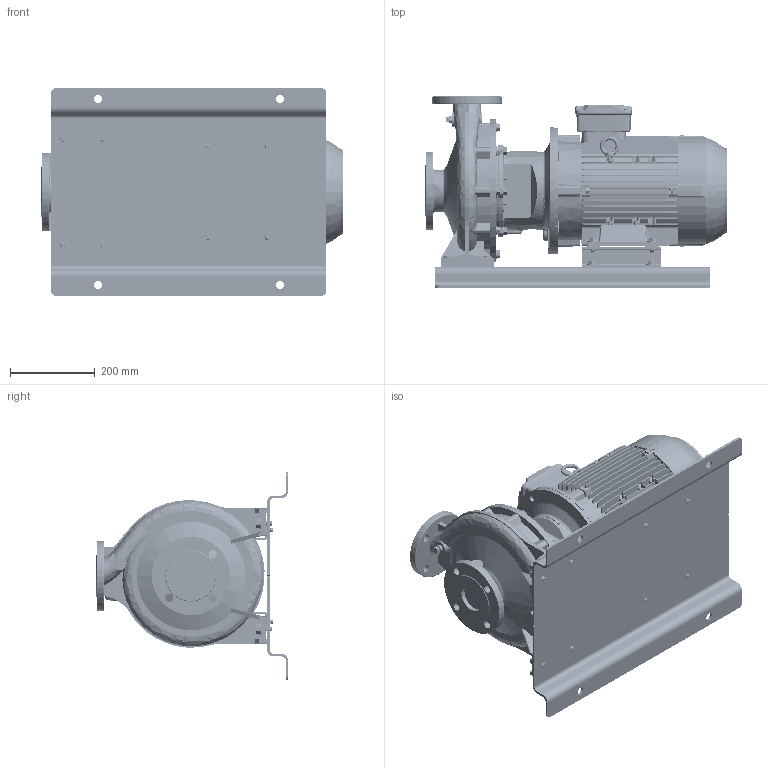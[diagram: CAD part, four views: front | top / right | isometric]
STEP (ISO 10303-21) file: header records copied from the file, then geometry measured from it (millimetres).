
FILE_DESCRIPTION (( 'STEP AP214' ), '1' );
FILE_NAME ('GSD4 50-250_5.5_(132S)_W21_BP.STEP', '2024-08-12T05:53:28', ( '' ), ( '' ), 'SwSTEP 2.0', 'SolidWorks 2019', '' );
FILE_SCHEMA (( 'AUTOMOTIVE_DESIGN' ));
Length unit declared in the file: millimetre
Products named in the file (22): Parametric bolt and washer_SFT-A299B; Parametric bolt_SFT-A299B; Parametric bolt_SFT-A249B; Parametric bolt and washer_SFT-A253B; 50-250-132S_______; Parametric bolt_SFT-A253B; Parametric bolt and washer_SFT-A249B; N5S5 GSDA-559 F1-1832985-00; 132S ALIE3_W21T_B35; Parametric Flat Washer_M10; 140 x 48 - 271472022; Parametric Flat Washer_M12; GSD4 50-250_5.5_(132S)_W21_BP
Assembly tree (41 placements, depth 3):
  GSD4 50-250_5.5_(132S)_W21_BP
    50-250-132S_______
    N5S5 GSDA-559 F1-1832985-00
    140 x 48 - 271472022  x2
    Parametric bolt and washer_SFT-A249B
      Parametric bolt_SFT-A249B
      Parametric Flat Washer_M10
    Parametric bolt and washer_SFT-A249B
      Parametric bolt_SFT-A249B
      Parametric Flat Washer_M10
    Parametric bolt and washer_SFT-A249B
      Parametric bolt_SFT-A249B
      Parametric Flat Washer_M10
    Parametric bolt and washer_SFT-A249B
      Parametric bolt_SFT-A249B
      Parametric Flat Washer_M10
    Parametric bolt and washer_SFT-A299B
      Parametric bolt_SFT-A299B
      Parametric Flat Washer_M12
    Parametric bolt and washer_SFT-A299B
      Parametric bolt_SFT-A299B
      Parametric Flat Washer_M12
    Parametric bolt and washer_SFT-A299B
      Parametric bolt_SFT-A299B
      Parametric Flat Washer_M12
    Parametric bolt and washer_SFT-A299B
      Parametric bolt_SFT-A299B
      Parametric Flat Washer_M12
    Parametric bolt and washer_SFT-A253B
      Parametric bolt_SFT-A253B
      Parametric Flat Washer_M10
    Parametric bolt and washer_SFT-A253B
      Parametric bolt_SFT-A253B
      Parametric Flat Washer_M10
    Parametric bolt and washer_SFT-A253B
      Parametric bolt_SFT-A253B
      Parametric Flat Washer_M10
    Parametric bolt and washer_SFT-A253B
      Parametric bolt_SFT-A253B
      Parametric Flat Washer_M10
    132S ALIE3_W21T_B35
Bounding box: 714.8 x 455 x 490 mm (x, y, z)
Volume: 33519374.2 mm3; surface area: 2891344.2 mm2
Topology: 33 solids, 34 shells, 5094 faces, 13168 edges, 8494 vertices
Faces by surface type: plane 3000, cylinder 1228, torus 293, cone 273, bspline 268, sphere 32
Entity records: 167553 total; most frequent: CARTESIAN_POINT 56898, ORIENTED_EDGE 23660, DIRECTION 21592, EDGE_CURVE 11830, VECTOR 7822, LINE 7822, VERTEX_POINT 7638, AXIS2_PLACEMENT_3D 6885
